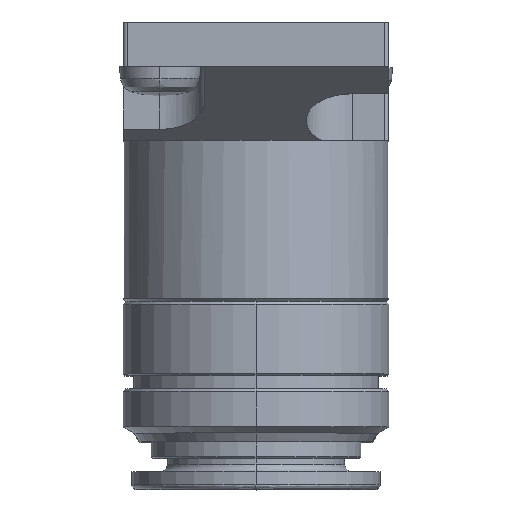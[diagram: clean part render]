
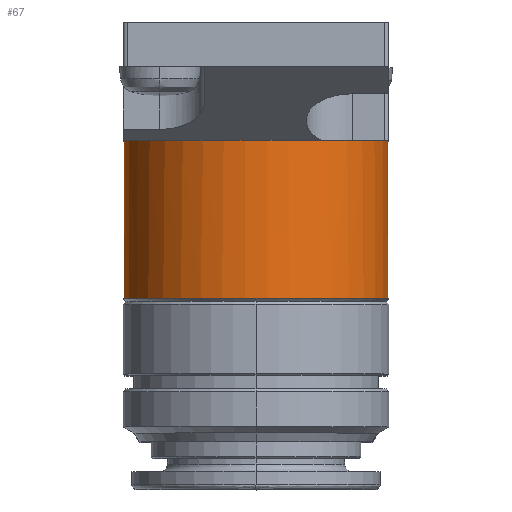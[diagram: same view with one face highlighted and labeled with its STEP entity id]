
A CAD part, top view. The second image highlights one B-rep face of the part: STEP entity #67.
In plain terms, the highlighted cylindrical face has radius 8.95 mm (diameter 17.9 mm), a partial arc.
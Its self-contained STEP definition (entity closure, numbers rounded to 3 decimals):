
#67=ADVANCED_FACE('',(#471),#470,.T.);
#470=CYLINDRICAL_SURFACE('',#1814,8.95);
#471=FACE_OUTER_BOUND('',#1815,.T.);
#1811=CARTESIAN_POINT('',(0.,-1008.,9.5));
#1812=DIRECTION('',(0.,-1.,0.));
#1813=DIRECTION('',(0.,0.,-1.));
#1814=AXIS2_PLACEMENT_3D('',#1811,#1812,#1813);
#1815=EDGE_LOOP('',(#3063,#3064,#3065,#3066,#3067,#3068));
#3063=ORIENTED_EDGE('',*,*,#3631,.T.);
#3064=ORIENTED_EDGE('',*,*,#3612,.T.);
#3065=ORIENTED_EDGE('',*,*,#3717,.T.);
#3066=ORIENTED_EDGE('',*,*,#3707,.F.);
#3067=ORIENTED_EDGE('',*,*,#3618,.F.);
#3068=ORIENTED_EDGE('',*,*,#3716,.T.);
#3612=EDGE_CURVE('',#3950,#3951,#3952,.T.);
#3618=EDGE_CURVE('',#3986,#3965,#3993,.T.);
#3631=EDGE_CURVE('',#4081,#3950,#4082,.T.);
#3707=EDGE_CURVE('',#3965,#4596,#4609,.T.);
#3716=EDGE_CURVE('',#3986,#4081,#4665,.T.);
#3717=EDGE_CURVE('',#3951,#4596,#4671,.T.);
#3950=VERTEX_POINT('',#6184);
#3951=VERTEX_POINT('',#6185);
#3952=CIRCLE('',#6189,8.95);
#3965=VERTEX_POINT('',#6194);
#3986=VERTEX_POINT('',#6209);
#3993=CIRCLE('',#6217,8.95);
#4081=VERTEX_POINT('',#6273);
#4082=CIRCLE('',#6277,8.95);
#4596=VERTEX_POINT('',#6635);
#4609=LINE('',#6643,#6644);
#4665=LINE('',#6674,#6675);
#4671=CIRCLE('',#6680,8.95);
#6184=CARTESIAN_POINT('',(3.586,-8.,17.7));
#6185=CARTESIAN_POINT('',(-3.586,-8.,17.7));
#6186=CARTESIAN_POINT('',(0.,-8.,9.5));
#6187=DIRECTION('',(0.,-1.,0.));
#6188=DIRECTION('',(0.401,0.,0.916));
#6189=AXIS2_PLACEMENT_3D('',#6186,#6187,#6188);
#6194=CARTESIAN_POINT('',(-1.016,-18.7,0.608));
#6209=CARTESIAN_POINT('',(1.016,-18.7,0.608));
#6214=CARTESIAN_POINT('',(0.,-18.7,9.5));
#6215=DIRECTION('',(0.,-1.,0.));
#6216=DIRECTION('',(0.114,0.,-0.994));
#6217=AXIS2_PLACEMENT_3D('',#6214,#6215,#6216);
#6273=CARTESIAN_POINT('',(1.016,-8.,0.608));
#6274=CARTESIAN_POINT('',(0.,-8.,9.5));
#6275=DIRECTION('',(0.,-1.,0.));
#6276=DIRECTION('',(0.,0.,1.));
#6277=AXIS2_PLACEMENT_3D('',#6274,#6275,#6276);
#6635=CARTESIAN_POINT('',(-1.016,-8.,0.608));
#6643=CARTESIAN_POINT('',(-1.016,-18.7,0.608));
#6644=VECTOR('',#6645,10.7);
#6645=DIRECTION('',(0.,1.,0.));
#6674=CARTESIAN_POINT('',(1.016,-18.7,0.608));
#6675=VECTOR('',#6676,10.7);
#6676=DIRECTION('',(0.,1.,0.));
#6677=CARTESIAN_POINT('',(0.,-8.,9.5));
#6678=DIRECTION('',(0.,-1.,0.));
#6679=DIRECTION('',(0.,0.,1.));
#6680=AXIS2_PLACEMENT_3D('',#6677,#6678,#6679);
